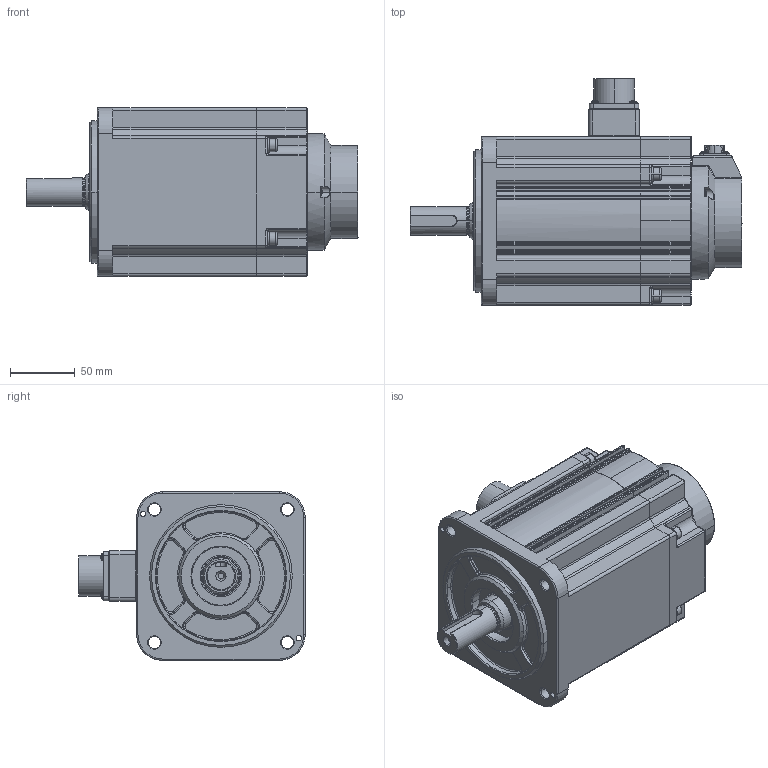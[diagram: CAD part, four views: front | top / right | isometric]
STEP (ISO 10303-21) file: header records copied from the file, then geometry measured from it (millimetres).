
FILE_DESCRIPTION((''),'2;1');
FILE_NAME('130-1800W-B','2023-03-31T16:28:37',('ms28071'),(''),'CREO PARAMETRIC BY PTC INC, 2018100','CREO PARAMETRIC BY PTC INC, 2018100','');
FILE_SCHEMA(('CONFIG_CONTROL_DESIGN'));
Length unit declared in the file: millimetre
Products named in the file (1): 130-1800W-B
Bounding box: 256 x 174.6 x 130.01 mm (x, y, z)
Surface area: 167677.2 mm2 (no closed solid volume)
Topology: 0 solids, 51 shells, 995 faces, 3030 edges, 2017 vertices
Faces by surface type: cylinder 448, plane 305, torus 117, cone 60, bspline 39, sphere 26
Entity records: 38035 total; most frequent: CARTESIAN_POINT 11292, DIRECTION 5816, ORIENTED_EDGE 5084, EDGE_CURVE 2996, AXIS2_PLACEMENT_3D 2246, VERTEX_POINT 2017, VECTOR 1324, LINE 1324
